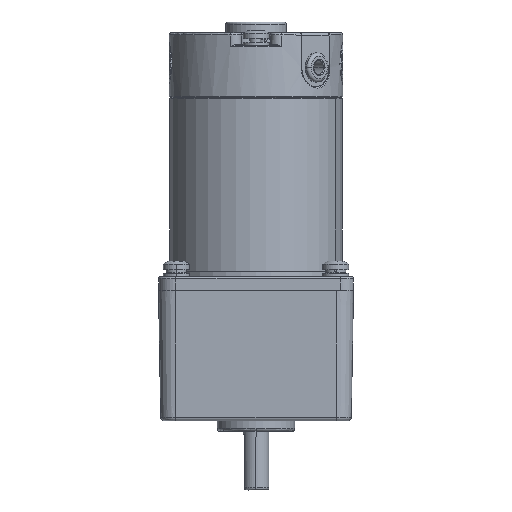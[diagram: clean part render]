
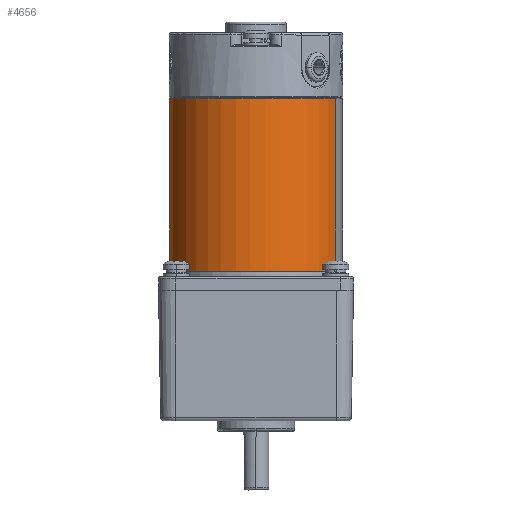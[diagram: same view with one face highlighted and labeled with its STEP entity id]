
A CAD part, left-side view. The second image highlights one B-rep face of the part: STEP entity #4656.
In plain terms, the highlighted cylindrical face has radius 40 mm (diameter 80 mm), a partial arc.
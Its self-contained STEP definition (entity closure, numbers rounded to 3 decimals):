
#80 = CIRCLE ( 'NONE', #12521, 40. ) ;
#90 = DIRECTION ( 'NONE',  ( 0., -1., 0. ) ) ;
#449 = DIRECTION ( 'NONE',  ( 0., 1., 0. ) ) ;
#452 = ORIENTED_EDGE ( 'NONE', *, *, #12813, .T. ) ;
#573 = ORIENTED_EDGE ( 'NONE', *, *, #14683, .T. ) ;
#788 = CARTESIAN_POINT ( 'NONE',  ( 0., 80., 40. ) ) ;
#968 = EDGE_LOOP ( 'NONE', ( #13235, #573, #452, #8570, #13331 ) ) ;
#1399 = VERTEX_POINT ( 'NONE', #788 ) ;
#2030 = CARTESIAN_POINT ( 'NONE',  ( 0., 0.3, 0. ) ) ;
#2596 = AXIS2_PLACEMENT_3D ( 'NONE', #6178, #90, #11122 ) ;
#3226 = AXIS2_PLACEMENT_3D ( 'NONE', #3245, #4316, #10558 ) ;
#3245 = CARTESIAN_POINT ( 'NONE',  ( 0., 0., 0. ) ) ;
#3888 = EDGE_CURVE ( 'NONE', #8461, #6018, #6944, .T. ) ;
#4305 = VECTOR ( 'NONE', #449, 1000. ) ;
#4316 = DIRECTION ( 'NONE',  ( 0., 1., 0. ) ) ;
#4656 = ADVANCED_FACE ( 'NONE', ( #9424 ), #10477, .T. ) ;
#4718 = DIRECTION ( 'NONE',  ( 0., 0., 1. ) ) ;
#5005 = AXIS2_PLACEMENT_3D ( 'NONE', #2030, #8552, #4718 ) ;
#5460 = CIRCLE ( 'NONE', #2596, 40. ) ;
#6018 = VERTEX_POINT ( 'NONE', #13659 ) ;
#6178 = CARTESIAN_POINT ( 'NONE',  ( 0., 80., 0. ) ) ;
#6233 = DIRECTION ( 'NONE',  ( 0., 1., 0. ) ) ;
#6471 = CARTESIAN_POINT ( 'NONE',  ( 0., 0.3, 0. ) ) ;
#6944 = LINE ( 'NONE', #8418, #7110 ) ;
#7110 = VECTOR ( 'NONE', #14581, 1000. ) ;
#7449 = DIRECTION ( 'NONE',  ( 0., 0., 1. ) ) ;
#8233 = VERTEX_POINT ( 'NONE', #10102 ) ;
#8418 = CARTESIAN_POINT ( 'NONE',  ( 0., 0., -40. ) ) ;
#8461 = VERTEX_POINT ( 'NONE', #8712 ) ;
#8552 = DIRECTION ( 'NONE',  ( 0., 1., 0. ) ) ;
#8570 = ORIENTED_EDGE ( 'NONE', *, *, #11175, .T. ) ;
#8712 = CARTESIAN_POINT ( 'NONE',  ( 0., 0.3, -40. ) ) ;
#9282 = LINE ( 'NONE', #14241, #4305 ) ;
#9424 = FACE_OUTER_BOUND ( 'NONE', #968, .T. ) ;
#10102 = CARTESIAN_POINT ( 'NONE',  ( -40., 0.3, 0. ) ) ;
#10477 = CYLINDRICAL_SURFACE ( 'NONE', #3226, 40. ) ;
#10558 = DIRECTION ( 'NONE',  ( 0., 0., 1. ) ) ;
#11122 = DIRECTION ( 'NONE',  ( 0., 0., 1. ) ) ;
#11175 = EDGE_CURVE ( 'NONE', #11385, #1399, #9282, .T. ) ;
#11385 = VERTEX_POINT ( 'NONE', #12283 ) ;
#11737 = EDGE_CURVE ( 'NONE', #1399, #6018, #5460, .T. ) ;
#11996 = CIRCLE ( 'NONE', #5005, 40. ) ;
#12283 = CARTESIAN_POINT ( 'NONE',  ( 0., 0.3, 40. ) ) ;
#12521 = AXIS2_PLACEMENT_3D ( 'NONE', #6471, #6233, #7449 ) ;
#12813 = EDGE_CURVE ( 'NONE', #8233, #11385, #80, .T. ) ;
#13235 = ORIENTED_EDGE ( 'NONE', *, *, #3888, .F. ) ;
#13331 = ORIENTED_EDGE ( 'NONE', *, *, #11737, .T. ) ;
#13659 = CARTESIAN_POINT ( 'NONE',  ( 0., 80., -40. ) ) ;
#14241 = CARTESIAN_POINT ( 'NONE',  ( 0., 0., 40. ) ) ;
#14581 = DIRECTION ( 'NONE',  ( 0., 1., 0. ) ) ;
#14683 = EDGE_CURVE ( 'NONE', #8461, #8233, #11996, .T. ) ;
